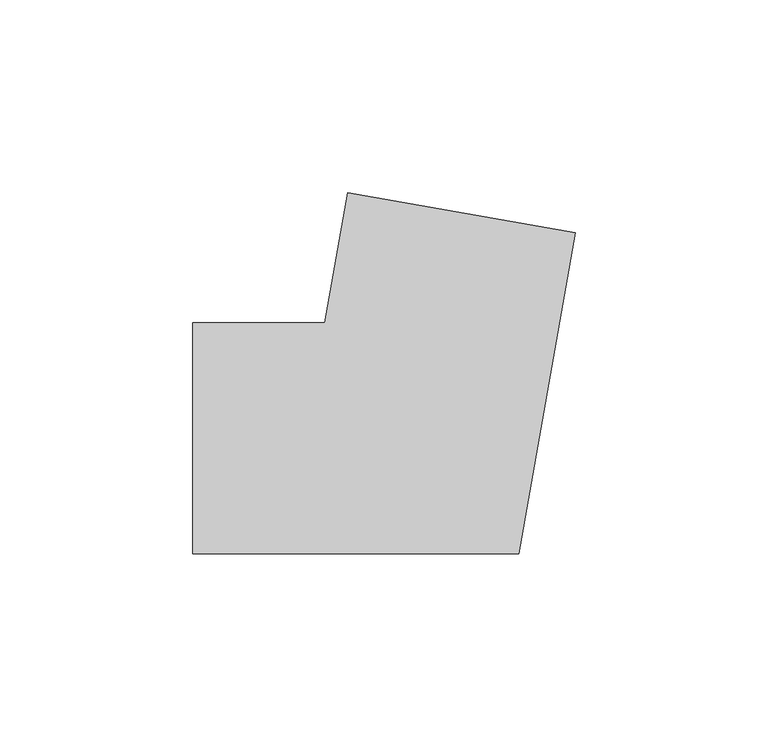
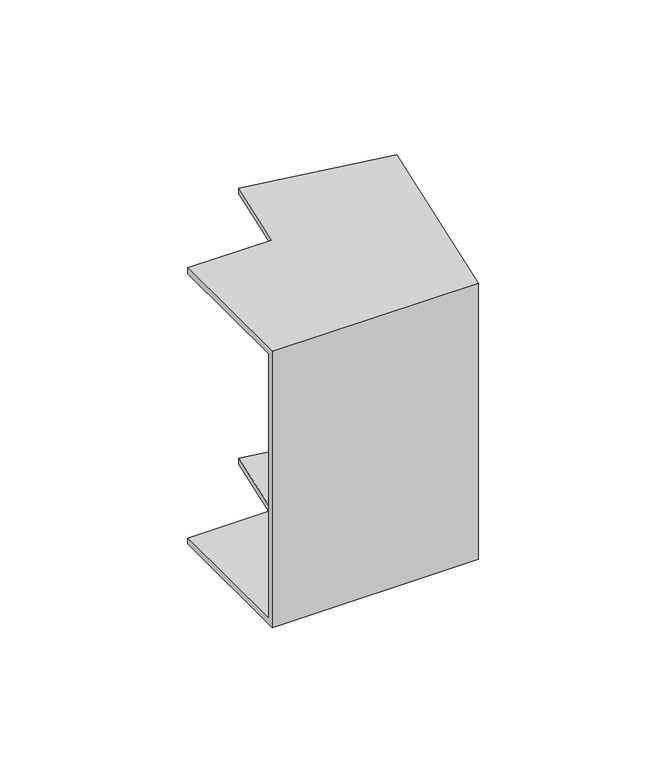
"""IFC4 building model written with IfcOpenShell, lengths in millimetres: cable carrier fitting geometry, КНС_УголВнутренний_ILC_DKC : Угол внутренний_DKC."""

import ifcopenshell
import ifcopenshell.guid

model = None  # the IFC model being written
_history = None  # IfcOwnerHistory: only IFC2X3 demands one
_inside = {}  # id of a spatial element -> (the spatial element, [elements in it])
_under = {}  # id of a project, library or spatial element -> (it, [spatial elements below it])
_declared = {}  # id of a project -> (the project, [libraries it declares])
_typed = {}  # id of a type object -> (the type object, [elements of that type])
_made_of = {}  # id of a material, layer set ... -> (it, [elements and type objects made of it])


def new_model(schema):
    """Start an empty IFC model of exactly this schema.

    Asked for "IFC4X3", IfcOpenShell would pick the latest addendum, in which some entities
    have other attributes; the version numbers below select the first issue.
    IFC2X3 requires an IfcOwnerHistory on every rooted entity: one is made here for all.
    """
    global model, _history
    if schema == "IFC4X3":
        model = ifcopenshell.file(schema_version=(4, 3, 0, 0))
    else:
        model = ifcopenshell.file(schema=schema)
    _inside.clear()
    _under.clear()
    _declared.clear()
    _typed.clear()
    _made_of.clear()
    _history = None
    if model.schema == "IFC2X3":
        org = make("IfcOrganization", Name="unknown")
        user = make(
            "IfcPersonAndOrganization",
            ThePerson=make("IfcPerson", FamilyName="unknown"),
            TheOrganization=org,
        )
        app = make(
            "IfcApplication",
            ApplicationDeveloper=org,
            Version="unknown",
            ApplicationFullName="unknown",
            ApplicationIdentifier="unknown",
        )
        _history = make(
            "IfcOwnerHistory",
            OwningUser=user,
            OwningApplication=app,
            ChangeAction="ADDED",
            CreationDate=0,
        )
    return model


def make(cls, **values):
    """One entity of the class cls with the attributes given. An attribute that is None is left unset."""
    return model.create_entity(
        cls, **{name: value for name, value in values.items() if value is not None}
    )


def rooted(cls, **values):
    """An entity with a GlobalId (a new one), such as an element, a storey or a relation."""
    return make(cls, GlobalId=ifcopenshell.guid.new(), OwnerHistory=_history, **values)


def si_unit(unit_type, name, prefix=None):
    """IfcSIUnit, for example si_unit("LENGTHUNIT", "METRE", prefix="MILLI")."""
    return make("IfcSIUnit", UnitType=unit_type, Prefix=prefix, Name=name)


def assignment(units):
    """IfcUnitAssignment: the units of a project."""
    return None if units is None else make("IfcUnitAssignment", Units=units)


def point(xyz):
    """IfcCartesianPoint."""
    return None if xyz is None else make("IfcCartesianPoint", Coordinates=xyz)


def direction(xyz):
    """IfcDirection."""
    return None if xyz is None else make("IfcDirection", DirectionRatios=xyz)


def frame(location, z_axis=None, x_axis=None):
    """IfcAxis2Placement3D, a coordinate frame: its origin and axes. An axis left out is left unset."""
    return make(
        "IfcAxis2Placement3D",
        Location=point(location),
        Axis=direction(z_axis),
        RefDirection=direction(x_axis),
    )


def origin():
    """The frame at (0, 0, 0) with its axes left unset."""
    return frame((0.0, 0.0, 0.0))


def place(relative_to, where):
    """IfcLocalPlacement: puts the frame where relative to a parent placement (None: the world)."""
    return make(
        "IfcLocalPlacement", PlacementRelTo=relative_to, RelativePlacement=where
    )


def context(
    kind, dimensions, precision=None, world=None, true_north=None, identifier=None
):
    """IfcGeometricRepresentationContext, for example the 3D "Model" context."""
    return make(
        "IfcGeometricRepresentationContext",
        ContextIdentifier=identifier,
        ContextType=kind,
        CoordinateSpaceDimension=dimensions,
        Precision=precision,
        WorldCoordinateSystem=world,
        TrueNorth=true_north,
    )


def project(units=None, contexts=None):
    """IfcProject with its units and contexts."""
    return rooted(
        "IfcProject",
        Name="project",
        RepresentationContexts=contexts,
        UnitsInContext=assignment(units),
    )


def spatial(cls, under=None, at=None, **own):
    """A site, building, storey or space (cls), placed at a placement, below another one or the project."""
    s = rooted(cls, ObjectPlacement=at, **own)
    if under is not None:
        _under.setdefault(under.id(), (under, []))[1].append(s)
    return s


def faces_of(points, faces, orient=None, outer=None):
    """IfcFace entities. A face is a list of loops; a loop is a list of indices into points, from 0.

    orient and outer hold one flag for each loop. By default every Orientation is true, the
    first loop of a face is its IfcFaceOuterBound and the others are IfcFaceBound.
    """
    made = []
    for i, loops in enumerate(faces):
        bounds = []
        for j, loop in enumerate(loops):
            is_outer = j == 0 if outer is None else outer[i][j]
            bounds.append(
                make(
                    "IfcFaceOuterBound" if is_outer else "IfcFaceBound",
                    Bound=make("IfcPolyLoop", Polygon=[points[k] for k in loop]),
                    Orientation=True if orient is None else orient[i][j],
                )
            )
        made.append(make("IfcFace", Bounds=bounds))
    return made


def faceted_brep(points, faces, orient=None, outer=None, voids=None):
    """IfcFacetedBrep: a solid bounded by flat faces; with voids (closed shells), ...WithVoids."""
    shared = [point(p) for p in points]
    hull = make("IfcClosedShell", CfsFaces=faces_of(shared, faces, orient, outer))
    if voids is None:
        return make("IfcFacetedBrep", Outer=hull)
    return make(
        "IfcFacetedBrepWithVoids",
        Outer=hull,
        Voids=[
            make(cls, CfsFaces=faces_of(shared, fs, o, b)) for cls, fs, o, b in voids
        ],
    )


def shape(context_of_items, identifier, shape_type, items):
    """IfcShapeRepresentation: the items that make up one representation, for example the "Body"."""
    return make(
        "IfcShapeRepresentation",
        ContextOfItems=context_of_items,
        RepresentationIdentifier=identifier,
        RepresentationType=shape_type,
        Items=items,
    )


def source(mapping_origin, context_of_items, identifier, shape_type, items):
    """IfcRepresentationMap: a shape defined once, which mapped items show again and again."""
    return make(
        "IfcRepresentationMap",
        MappingOrigin=mapping_origin,
        MappedRepresentation=shape(context_of_items, identifier, shape_type, items),
    )


def transform(
    local_origin,
    x_axis=None,
    y_axis=None,
    z_axis=None,
    scale=None,
    scale2=None,
    scale3=None,
    uniform=True,
):
    """IfcCartesianTransformationOperator3D, or its non-uniform kind. x_axis, y_axis, z_axis: its Axis1, 2, 3."""
    if uniform:
        return make(
            "IfcCartesianTransformationOperator3D",
            Axis1=direction(x_axis),
            Axis2=direction(y_axis),
            LocalOrigin=point(local_origin),
            Scale=scale,
            Axis3=direction(z_axis),
        )
    return make(
        "IfcCartesianTransformationOperator3DnonUniform",
        Axis1=direction(x_axis),
        Axis2=direction(y_axis),
        LocalOrigin=point(local_origin),
        Scale=scale,
        Axis3=direction(z_axis),
        Scale2=scale2,
        Scale3=scale3,
    )


def mapped(mapping_source, mapping_target):
    """IfcMappedItem: shows the shape of a source again, moved by a transform."""
    return make(
        "IfcMappedItem", MappingSource=mapping_source, MappingTarget=mapping_target
    )


def made_of(thing, what):
    """Note that an element or type object is made of a material, layer set ...; save() writes the relation."""
    if what is not None:
        _made_of.setdefault(what.id(), (what, []))[1].append(thing)
    return thing


def element(
    cls,
    number,
    at=None,
    inside=None,
    cuts=None,
    type_object=None,
    material=None,
    context=None,
    identifier="Body",
    shape_type=None,
    held_by="IfcProductDefinitionShape",
    body=None,
    shapes=None,
    **own,
):
    """One element of the class cls, such as IfcWall. Its Tag is "e" and its number.

    at: its placement. inside: the storey or other place that contains it. cuts: it is an
    opening in that element (IfcRelVoidsElement). A single representation is given by context,
    identifier, shape_type and body (its items); several are given by shapes. held_by: the class
    of the entity that holds the representations. save() writes the other relations.
    """
    e = rooted(cls, Tag="e%d" % number, ObjectPlacement=at, **own)
    if body is not None:
        shapes = [shape(context, identifier, shape_type, body)]
    if shapes is not None:
        e.Representation = make(held_by, Representations=shapes)
    if inside is not None:
        _inside.setdefault(inside.id(), (inside, []))[1].append(e)
    if cuts is not None:
        rooted(
            "IfcRelVoidsElement", RelatingBuildingElement=cuts, RelatedOpeningElement=e
        )
    if type_object is not None:
        _typed.setdefault(type_object.id(), (type_object, []))[1].append(e)
    return made_of(e, material)


def aggregate(whole, parts):
    """IfcRelAggregates: a whole, such as a stair, and the parts it consists of."""
    return rooted("IfcRelAggregates", RelatingObject=whole, RelatedObjects=parts)


def save(model, path):
    """Write the relations noted so far, then the file.

    IfcRelAggregates (storeys below a building ...), IfcRelContainedInSpatialStructure (elements
    in a storey), IfcRelDefinesByType, IfcRelAssociatesMaterial and IfcRelDeclares: one each for
    every whole, place, type object, material and project.
    """
    for whole, parts in _under.values():
        aggregate(whole, parts)
    for where, things in _inside.values():
        rooted(
            "IfcRelContainedInSpatialStructure",
            RelatedElements=things,
            RelatingStructure=where,
        )
    for kind, things in _typed.values():
        rooted("IfcRelDefinesByType", RelatedObjects=things, RelatingType=kind)
    for what, things in _made_of.values():
        rooted("IfcRelAssociatesMaterial", RelatedObjects=things, RelatingMaterial=what)
    for by, libraries in _declared.values():
        rooted("IfcRelDeclares", RelatingContext=by, RelatedDefinitions=libraries)
    model.write(path)


def cable_carrier_fitting_6b07f833(model_context):
    return source(origin(), model_context, "Body", "Brep", [
        faceted_brep([(-59.541476, -30.0, 60.0), (-59.541476, 30.0, 60.0), (-59.541476, 30.0, 57.5), (-59.541476, -27.5, 57.5), (-59.541476, -27.5, -57.5), (-59.541476, 30.0, -57.5), (-59.541476, 30.0, -60.0), (-59.541476, -30.0, -60.0), (39.8835014, 53.4274619, 60.0), (39.8835014, 53.4274619, -60.0), (-19.2049638, 63.8463525, -60.0), (-19.2049638, 63.8463525, -57.5), (37.421482, 53.8615823, -57.5), (37.421482, 53.8615823, 57.5), (-19.2049638, 63.8463525, 57.5), (-19.2049638, 63.8463525, 60.0), (25.1729889, -30.0, 60.0), (-25.1729889, 30.0, 60.0), (-25.1729889, 30.0, 57.5), (23.0752399, -27.5, 57.5), (23.0752399, -27.5, -57.5), (-25.1729889, 30.0, -57.5), (-25.1729889, 30.0, -60.0), (25.1729889, -30.0, -60.0)], [[[0, 1, 2, 3, 4, 5, 6, 7]], [[8, 9, 10, 11, 12, 13, 14, 15]], [[1, 0, 16, 8, 15, 17]], [[2, 1, 17, 18]], [[3, 2, 18, 14, 13, 19]], [[4, 3, 19, 20]], [[5, 4, 20, 12, 11, 21]], [[6, 5, 21, 22]], [[7, 6, 22, 10, 9, 23]], [[0, 7, 23, 16]], [[18, 17, 15, 14]], [[20, 19, 13, 12]], [[22, 21, 11, 10]], [[16, 23, 9, 8]]]),
    ])


if __name__ == "__main__":
    model = new_model("IFC4")
    model_context = context("Model", 3, world=origin())
    ifc_project = project(units=[si_unit("LENGTHUNIT", "METRE", prefix="MILLI")], contexts=[model_context])
    site = spatial("IfcSite", under=ifc_project)
    building = spatial("IfcBuilding", under=site)
    placement = place(None, origin())
    cable_carrier_fitting_shape = cable_carrier_fitting_6b07f833(model_context)
    element("IfcCableCarrierFitting", 1, ObjectType="КНС_УголВнутренний_ILC_DKC : Угол внутренний_DKC", at=placement, inside=building, context=model_context, shape_type="MappedRepresentation", body=[
        mapped(cable_carrier_fitting_shape, transform((0.0, 0.0, 0.0), x_axis=(1.0, 0.0, 0.0), y_axis=(0.0, 1.0, 0.0), z_axis=(0.0, 0.0, 1.0))),
    ])
    save(model, "model.ifc")
